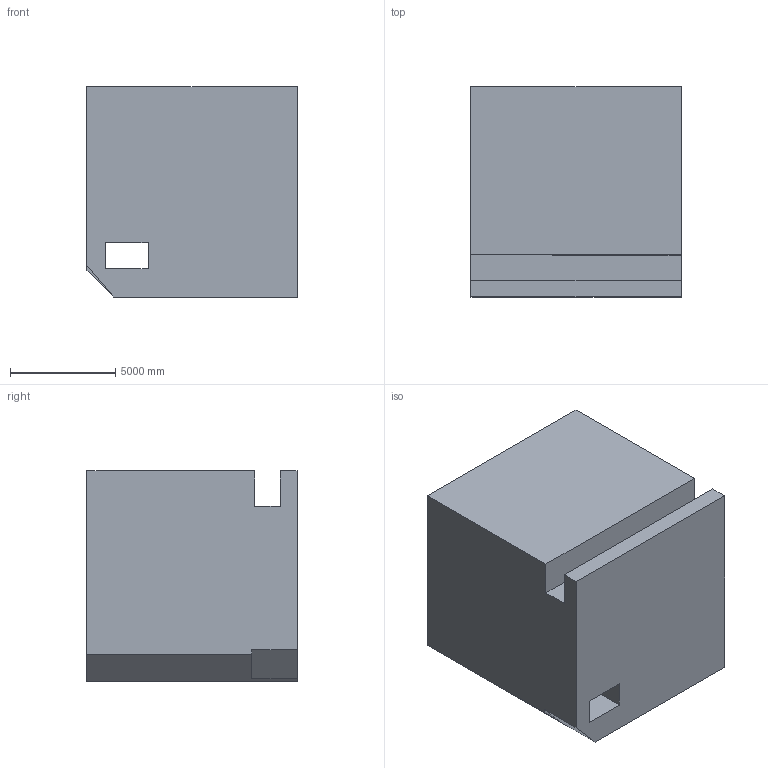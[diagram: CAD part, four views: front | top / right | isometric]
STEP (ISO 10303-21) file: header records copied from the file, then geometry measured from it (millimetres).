
FILE_DESCRIPTION (( 'STEP AP203' ), '1' );
FILE_NAME ('792.STEP', '2022-07-29T13:14:46', ( 'user' ), ( '' ), 'SwSTEP 2.0', 'SolidWorks 2021', '' );
FILE_SCHEMA (( 'CONFIG_CONTROL_DESIGN' ));
Length unit declared in the file: centimetre
Products named in the file (1): 792
Bounding box: 10000 x 10000 x 10000 mm (x, y, z)
Volume: 895503005570.1 mm3; surface area: 789256648.4 mm2
Topology: 1 solids, 1 shells, 35 faces, 96 edges, 64 vertices
Faces by surface type: plane 27, cylinder 8
Entity records: 1191 total; most frequent: CARTESIAN_POINT 208, ORIENTED_EDGE 192, DIRECTION 180, EDGE_CURVE 96, VECTOR 76, LINE 76, VERTEX_POINT 64, AXIS2_PLACEMENT_3D 52
